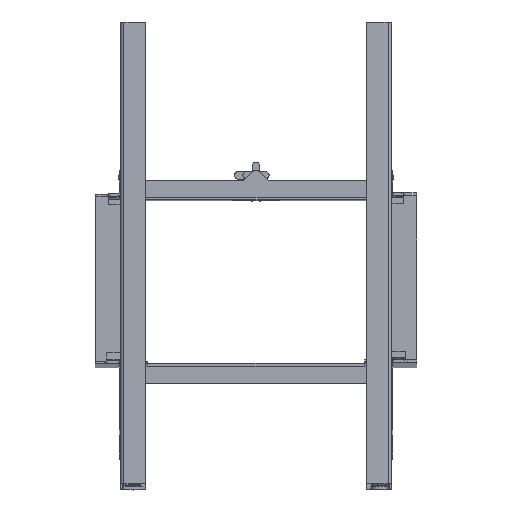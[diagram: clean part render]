
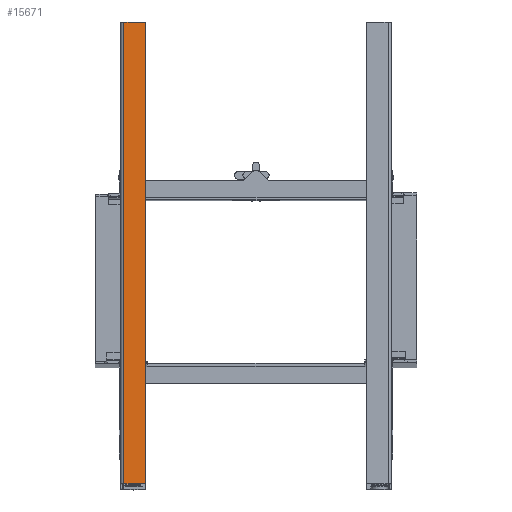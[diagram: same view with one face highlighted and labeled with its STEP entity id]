
A CAD part, front view. The second image highlights one B-rep face of the part: STEP entity #15671.
In plain terms, the highlighted planar face has unit normal (0, -1, 0.031).
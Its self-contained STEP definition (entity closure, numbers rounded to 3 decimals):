
#1243=FACE_OUTER_BOUND('',#2105,.T.);
#2105=EDGE_LOOP('',(#11015,#11016,#11017,#11018,#11019,#11020));
#3036=CIRCLE('',#16674,2.);
#3038=CIRCLE('',#16684,2.);
#3869=LINE('',#23420,#5335);
#3881=LINE('',#23448,#5347);
#3883=LINE('',#23451,#5349);
#3888=LINE('',#23461,#5354);
#5335=VECTOR('',#18698,10.);
#5347=VECTOR('',#18730,10.);
#5349=VECTOR('',#18734,10.);
#5354=VECTOR('',#18749,10.);
#6845=VERTEX_POINT('',#23410);
#6846=VERTEX_POINT('',#23412);
#6848=VERTEX_POINT('',#23418);
#6852=VERTEX_POINT('',#23441);
#6853=VERTEX_POINT('',#23443);
#6854=VERTEX_POINT('',#23447);
#8420=EDGE_CURVE('',#6845,#6846,#3036,.T.);
#8424=EDGE_CURVE('',#6848,#6845,#3869,.T.);
#8436=EDGE_CURVE('',#6852,#6853,#3038,.T.);
#8438=EDGE_CURVE('',#6854,#6853,#3881,.T.);
#8440=EDGE_CURVE('',#6848,#6854,#3883,.T.);
#8448=EDGE_CURVE('',#6852,#6846,#3888,.T.);
#11015=ORIENTED_EDGE('',*,*,#8420,.F.);
#11016=ORIENTED_EDGE('',*,*,#8424,.F.);
#11017=ORIENTED_EDGE('',*,*,#8440,.T.);
#11018=ORIENTED_EDGE('',*,*,#8438,.T.);
#11019=ORIENTED_EDGE('',*,*,#8436,.F.);
#11020=ORIENTED_EDGE('',*,*,#8448,.T.);
#15169=PLANE('',#16691);
#15671=ADVANCED_FACE('',(#1243),#15169,.F.);
#16674=AXIS2_PLACEMENT_3D('',#23413,#18691,#18692);
#16684=AXIS2_PLACEMENT_3D('',#23444,#18725,#18726);
#16691=AXIS2_PLACEMENT_3D('',#23460,#18747,#18748);
#18691=DIRECTION('center_axis',(0.,1.,-0.031));
#18692=DIRECTION('ref_axis',(0.707,0.022,0.707));
#18698=DIRECTION('',(1.,0.,0.));
#18725=DIRECTION('center_axis',(0.,1.,-0.031));
#18726=DIRECTION('ref_axis',(0.707,-0.022,-0.707));
#18730=DIRECTION('',(1.,0.,0.));
#18734=DIRECTION('',(0.,-0.031,-1.));
#18747=DIRECTION('center_axis',(0.,1.,-0.031));
#18748=DIRECTION('ref_axis',(0.,-0.031,-1.));
#18749=DIRECTION('',(0.,0.031,1.));
#23410=CARTESIAN_POINT('',(-259.567,-531.315,504.73));
#23412=CARTESIAN_POINT('',(-257.567,-531.376,502.731));
#23413=CARTESIAN_POINT('Origin',(-259.567,-531.376,502.731));
#23418=CARTESIAN_POINT('',(-323.317,-531.315,504.73));
#23420=CARTESIAN_POINT('',(-386.148,-531.315,504.73));
#23441=CARTESIAN_POINT('',(-257.567,-574.355,-895.609));
#23443=CARTESIAN_POINT('',(-259.567,-574.416,-897.608));
#23444=CARTESIAN_POINT('Origin',(-259.567,-574.355,-895.609));
#23447=CARTESIAN_POINT('',(-323.317,-574.416,-897.608));
#23448=CARTESIAN_POINT('',(-386.148,-574.416,-897.608));
#23451=CARTESIAN_POINT('',(-323.317,-552.865,-196.439));
#23460=CARTESIAN_POINT('Origin',(-321.857,-552.865,-196.439));
#23461=CARTESIAN_POINT('',(-257.567,-574.416,-897.608));
